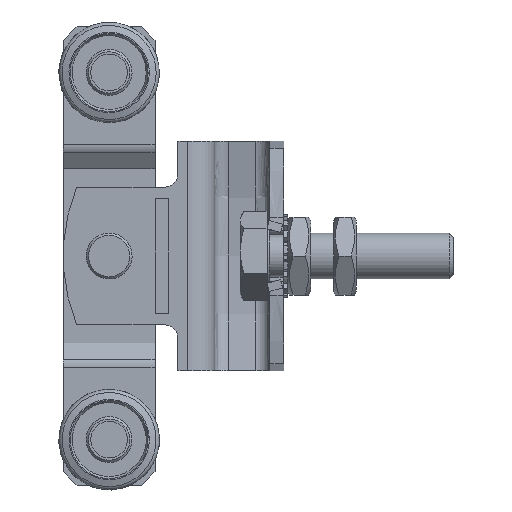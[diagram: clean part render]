
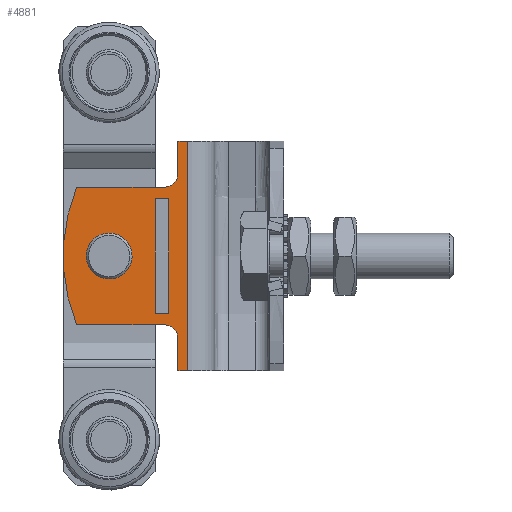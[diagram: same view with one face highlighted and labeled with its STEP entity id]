
A CAD part, left-side view. The second image highlights one B-rep face of the part: STEP entity #4881.
In plain terms, the highlighted planar face has unit normal (-1, 0, 0).
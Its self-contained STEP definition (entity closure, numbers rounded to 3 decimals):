
#208=FACE_BOUND('',#732,.T.);
#209=FACE_BOUND('',#733,.T.);
#426=FACE_OUTER_BOUND('',#731,.T.);
#731=EDGE_LOOP('',(#3530,#3531,#3532,#3533,#3534,#3535,#3536,#3537,#3538,
#3539));
#732=EDGE_LOOP('',(#3540,#3541,#3542,#3543));
#733=EDGE_LOOP('',(#3544));
#1103=LINE('',#7486,#1515);
#1107=LINE('',#7494,#1519);
#1110=LINE('',#7500,#1522);
#1113=LINE('',#7505,#1525);
#1115=LINE('',#7516,#1527);
#1120=LINE('',#7530,#1532);
#1124=LINE('',#7542,#1536);
#1128=LINE('',#7554,#1540);
#1133=LINE('',#7563,#1545);
#1134=LINE('',#7566,#1546);
#1135=LINE('',#7567,#1547);
#1515=VECTOR('',#5938,25.);
#1519=VECTOR('',#5944,3.);
#1522=VECTOR('',#5949,25.);
#1525=VECTOR('',#5954,3.);
#1527=VECTOR('',#5966,7.);
#1532=VECTOR('',#5979,19.081);
#1536=VECTOR('',#5991,19.081);
#1540=VECTOR('',#6003,7.);
#1545=VECTOR('',#6010,2.);
#1546=VECTOR('',#6013,50.);
#1547=VECTOR('',#6014,2.);
#1858=CIRCLE('',#5204,3.05);
#1859=CIRCLE('',#5207,3.);
#1861=CIRCLE('',#5211,40.);
#1863=CIRCLE('',#5215,3.);
#2145=VERTEX_POINT('',#7484);
#2146=VERTEX_POINT('',#7485);
#2149=VERTEX_POINT('',#7493);
#2151=VERTEX_POINT('',#7499);
#2154=VERTEX_POINT('',#7511);
#2155=VERTEX_POINT('',#7514);
#2156=VERTEX_POINT('',#7515);
#2159=VERTEX_POINT('',#7523);
#2161=VERTEX_POINT('',#7529);
#2163=VERTEX_POINT('',#7535);
#2165=VERTEX_POINT('',#7541);
#2167=VERTEX_POINT('',#7547);
#2169=VERTEX_POINT('',#7553);
#2172=VERTEX_POINT('',#7561);
#2173=VERTEX_POINT('',#7565);
#2658=EDGE_CURVE('',#2145,#2146,#1103,.T.);
#2662=EDGE_CURVE('',#2149,#2145,#1107,.T.);
#2665=EDGE_CURVE('',#2151,#2149,#1110,.T.);
#2668=EDGE_CURVE('',#2146,#2151,#1113,.T.);
#2671=EDGE_CURVE('',#2154,#2154,#1858,.T.);
#2672=EDGE_CURVE('',#2155,#2156,#1115,.T.);
#2676=EDGE_CURVE('',#2156,#2159,#1859,.T.);
#2679=EDGE_CURVE('',#2159,#2161,#1120,.T.);
#2682=EDGE_CURVE('',#2161,#2163,#1861,.T.);
#2685=EDGE_CURVE('',#2163,#2165,#1124,.T.);
#2688=EDGE_CURVE('',#2165,#2167,#1863,.T.);
#2691=EDGE_CURVE('',#2167,#2169,#1128,.T.);
#2696=EDGE_CURVE('',#2172,#2169,#1133,.T.);
#2697=EDGE_CURVE('',#2172,#2173,#1134,.T.);
#2698=EDGE_CURVE('',#2155,#2173,#1135,.T.);
#3530=ORIENTED_EDGE('',*,*,#2672,.T.);
#3531=ORIENTED_EDGE('',*,*,#2676,.T.);
#3532=ORIENTED_EDGE('',*,*,#2679,.T.);
#3533=ORIENTED_EDGE('',*,*,#2682,.T.);
#3534=ORIENTED_EDGE('',*,*,#2685,.T.);
#3535=ORIENTED_EDGE('',*,*,#2688,.T.);
#3536=ORIENTED_EDGE('',*,*,#2691,.T.);
#3537=ORIENTED_EDGE('',*,*,#2696,.F.);
#3538=ORIENTED_EDGE('',*,*,#2697,.T.);
#3539=ORIENTED_EDGE('',*,*,#2698,.F.);
#3540=ORIENTED_EDGE('',*,*,#2658,.T.);
#3541=ORIENTED_EDGE('',*,*,#2668,.T.);
#3542=ORIENTED_EDGE('',*,*,#2665,.T.);
#3543=ORIENTED_EDGE('',*,*,#2662,.T.);
#3544=ORIENTED_EDGE('',*,*,#2671,.T.);
#4706=PLANE('',#5219);
#4881=ADVANCED_FACE('',(#426,#208,#209),#4706,.F.);
#5204=AXIS2_PLACEMENT_3D('',#7512,#5962,#5963);
#5207=AXIS2_PLACEMENT_3D('',#7524,#5972,#5973);
#5211=AXIS2_PLACEMENT_3D('',#7536,#5984,#5985);
#5215=AXIS2_PLACEMENT_3D('',#7548,#5996,#5997);
#5219=AXIS2_PLACEMENT_3D('',#7564,#6011,#6012);
#5938=DIRECTION('',(0.,-1.,0.));
#5944=DIRECTION('',(0.,0.,1.));
#5949=DIRECTION('',(0.,1.,0.));
#5954=DIRECTION('',(0.,0.,-1.));
#5962=DIRECTION('center_axis',(1.,0.,0.));
#5963=DIRECTION('ref_axis',(0.,-1.,0.));
#5966=DIRECTION('',(0.,1.,0.));
#5972=DIRECTION('center_axis',(1.,0.,0.));
#5973=DIRECTION('ref_axis',(0.,0.,-1.));
#5979=DIRECTION('',(0.,0.,1.));
#5984=DIRECTION('center_axis',(-1.,0.,0.));
#5985=DIRECTION('ref_axis',(0.,0.375,-0.927));
#5991=DIRECTION('',(0.,0.,-1.));
#5996=DIRECTION('center_axis',(1.,0.,0.));
#5997=DIRECTION('ref_axis',(0.,-1.,0.));
#6003=DIRECTION('',(0.,1.,0.));
#6010=DIRECTION('',(0.,0.,1.));
#6011=DIRECTION('center_axis',(1.,0.,0.));
#6012=DIRECTION('ref_axis',(0.,0.,
-1.));
#6013=DIRECTION('',(0.,-1.,0.));
#6014=DIRECTION('',(0.,0.,-1.));
#7484=CARTESIAN_POINT('',(-1.5,12.5,28.));
#7485=CARTESIAN_POINT('',(-1.5,-12.5,28.));
#7486=CARTESIAN_POINT('',(-1.5,6.25,28.));
#7493=CARTESIAN_POINT('',(-1.5,12.5,25.));
#7494=CARTESIAN_POINT('',(-1.5,12.5,28.054));
#7499=CARTESIAN_POINT('',(-1.5,-12.5,25.));
#7500=CARTESIAN_POINT('',(-1.5,-6.25,25.));
#7505=CARTESIAN_POINT('',(-1.5,-12.5,29.554));
#7511=CARTESIAN_POINT('',(-1.5,3.05,38.));
#7512=CARTESIAN_POINT('Origin',(-1.5,0.,38.));
#7514=CARTESIAN_POINT('',(-1.5,-25.,23.));
#7515=CARTESIAN_POINT('',(-1.5,-18.,23.));
#7516=CARTESIAN_POINT('',(-1.5,-12.5,23.));
#7523=CARTESIAN_POINT('',(-1.5,-15.,26.));
#7524=CARTESIAN_POINT('Origin',(-1.5,-18.,26.));
#7529=CARTESIAN_POINT('',(-1.5,-15.,45.081));
#7530=CARTESIAN_POINT('',(-1.5,-15.,28.554));
#7535=CARTESIAN_POINT('',(-1.5,15.,45.081));
#7536=CARTESIAN_POINT('Origin',(-1.5,0.,8.));
#7541=CARTESIAN_POINT('',(-1.5,15.,26.));
#7542=CARTESIAN_POINT('',(-1.5,15.,38.094));
#7547=CARTESIAN_POINT('',(-1.5,18.,23.));
#7548=CARTESIAN_POINT('Origin',(-1.5,18.,26.));
#7553=CARTESIAN_POINT('',(-1.5,25.,23.));
#7554=CARTESIAN_POINT('',(-1.5,9.,23.));
#7561=CARTESIAN_POINT('',(-1.5,25.,21.));
#7563=CARTESIAN_POINT('',(-1.5,25.,21.));
#7564=CARTESIAN_POINT('Origin',(-1.5,0.,
31.107));
#7565=CARTESIAN_POINT('',(-1.5,-25.,21.));
#7566=CARTESIAN_POINT('',(-1.5,0.,21.));
#7567=CARTESIAN_POINT('',(-1.5,-25.,7.428));
